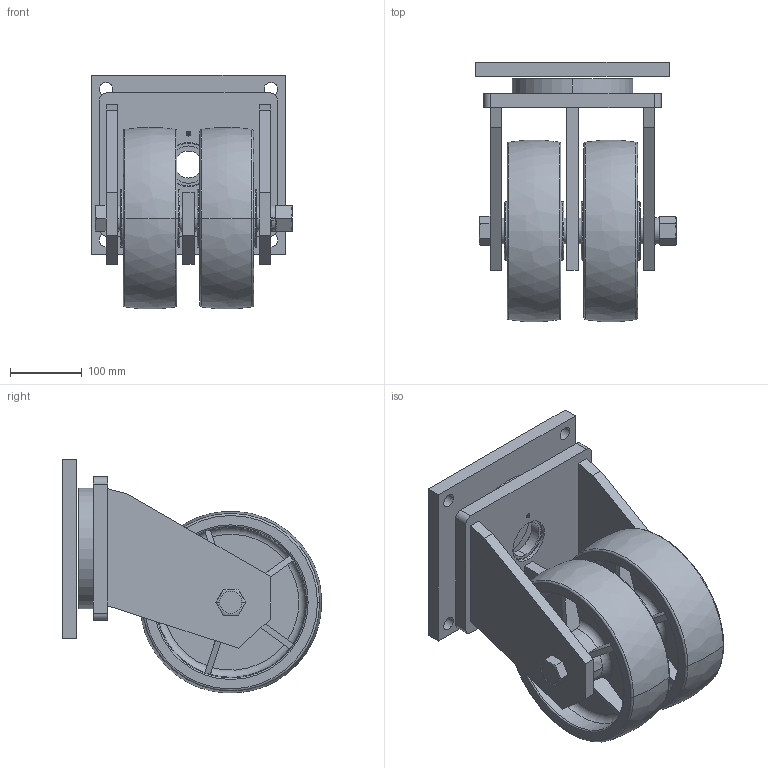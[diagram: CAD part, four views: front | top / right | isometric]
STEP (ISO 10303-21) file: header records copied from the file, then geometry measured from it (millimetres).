
FILE_DESCRIPTION((''),'2;1');
FILE_NAME('951110-9510-86A_ASM_1_ASM','2026-04-07T',('Lenovo'),(''),'PRO/ENGINEER BY PARAMETRIC TECHNOLOGY CORPORATION, 2010280','PRO/ENGINEER BY PARAMETRIC TECHNOLOGY CORPORATION, 2010280','');
FILE_SCHEMA(('CONFIG_CONTROL_DESIGN'));
Length unit declared in the file: millimetre
Products named in the file (18): 950C01_3; 950C11-1_1; 950C11-2_1; 950C03_1; 950C11-3_1; 950-11_ASM_4_ASM; 9310-986A_2; MANIFOLD_SOLID_BREP_17414; MANIFOLD_SOLID_BREP_17782; MANIFOLD_SOLID_BREP_19044; 6206_1_ASM; 930-54_1; 930-66_1; 9310-86A_ASM_1_ASM; M24X260_2; GB93-1987_2; M24X24_2; 951110-9510-86A_ASM_1_ASM
Assembly tree (21 placements, depth 4):
  951110-9510-86A_ASM_1_ASM
    950C01_3
    950-11_ASM_4_ASM
      950C11-1_1  x2
      950C11-2_1
      950C03_1
      950C11-3_1
    9310-86A_ASM_1_ASM  x2
      9310-986A_2
      6206_1_ASM
        MANIFOLD_SOLID_BREP_17414
        MANIFOLD_SOLID_BREP_17782
        MANIFOLD_SOLID_BREP_19044
      930-54_1
      930-66_1
    M24X260_2
    GB93-1987_2
    M24X24_2
Bounding box: 280 x 361.66 x 326.47 mm (x, y, z)
Volume: 7413688.2 mm3; surface area: 1105738.9 mm2
Topology: 29 solids, 29 shells, 743 faces, 2232 edges, 1337 vertices
Faces by surface type: sphere 218, plane 188, cylinder 151, torus 128, cone 44, bspline 14
Entity records: 13918 total; most frequent: CARTESIAN_POINT 4750, DIRECTION 1938, ORIENTED_EDGE 1824, EDGE_CURVE 912, AXIS2_PLACEMENT_3D 844, VERTEX_POINT 613, CIRCLE 448, EDGE_LOOP 415
